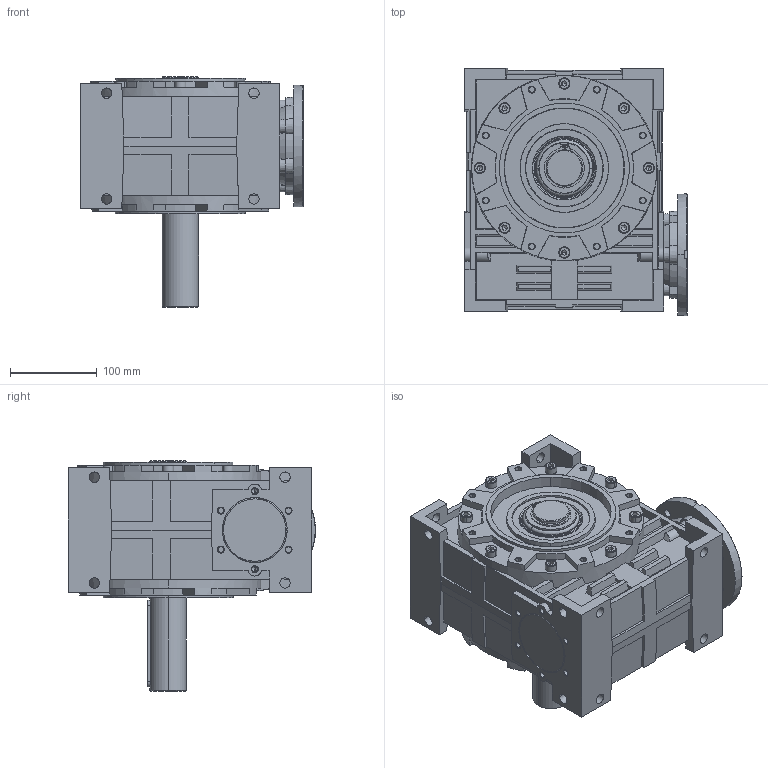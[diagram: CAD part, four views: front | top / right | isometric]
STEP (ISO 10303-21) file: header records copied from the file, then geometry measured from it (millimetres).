
FILE_DESCRIPTION (( 'STEP AP203' ), '1' );
FILE_NAME ('MR-100_140-24-WJ-1-3D.STEP', '2023-09-29T07:11:44', ( '' ), ( '' ), 'SwSTEP 2.0', 'SolidWorks 2022', '' );
FILE_SCHEMA (( 'CONFIG_CONTROL_DESIGN' ));
Length unit declared in the file: millimetre
Products named in the file (1): MR-100_140-24-WJ-1-3D
Bounding box: 257 x 285.22 x 266 mm (x, y, z)
Volume: 8061946.6 mm3; surface area: 461305.4 mm2
Topology: 1 solids, 17 shells, 1385 faces, 3465 edges, 2174 vertices
Faces by surface type: plane 698, cone 310, cylinder 263, torus 82, bspline 32
Entity records: 43871 total; most frequent: CARTESIAN_POINT 10839, DIRECTION 6937, ORIENTED_EDGE 6850, EDGE_CURVE 3425, AXIS2_PLACEMENT_3D 2621, VERTEX_POINT 2174, VECTOR 1695, LINE 1695
